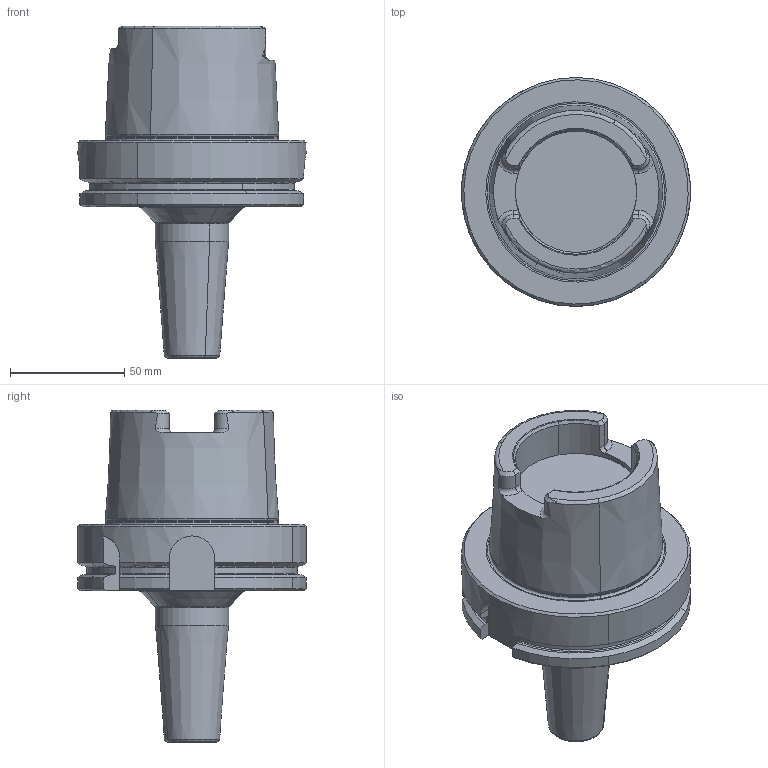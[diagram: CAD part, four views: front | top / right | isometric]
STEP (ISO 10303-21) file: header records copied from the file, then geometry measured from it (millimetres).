
FILE_DESCRIPTION(('CATIA V5 STEP','CAx-IF Rec.Pracs.--- Model Styling and Organization---1.2---2011-12-15'),'2;1');
FILE_NAME('\\nas01\drv1\utils\eitdev\rte\eit\transmagicconvert\db\out\4504213 L.stp','2014-04-03T05:39:46+00:00',('none'),('none'),'CATIA Version 5 Release 21 SP 5 (IN-10)','CATIA V5 STEP AP214','none');
FILE_SCHEMA(('AUTOMOTIVE_DESIGN { 1 0 10303 214 1 1 1 1 }'));
Length unit declared in the file: millimetre
Products named in the file (1): 60967223_0 Holder-Tool HSK A 100 SRKIN 12X 95
Bounding box: 100 x 100 x 145 mm (x, y, z)
Volume: 431249 mm3; surface area: 44440.6 mm2
Topology: 1 solids, 1 shells, 139 faces, 354 edges, 220 vertices
Faces by surface type: cone 37, plane 37, cylinder 33, torus 32
Entity records: 4159 total; most frequent: CARTESIAN_POINT 1182, ORIENTED_EDGE 708, DIRECTION 445, EDGE_CURVE 354, AXIS2_PLACEMENT_3D 244, VERTEX_POINT 220, CIRCLE 161, EDGE_LOOP 142
